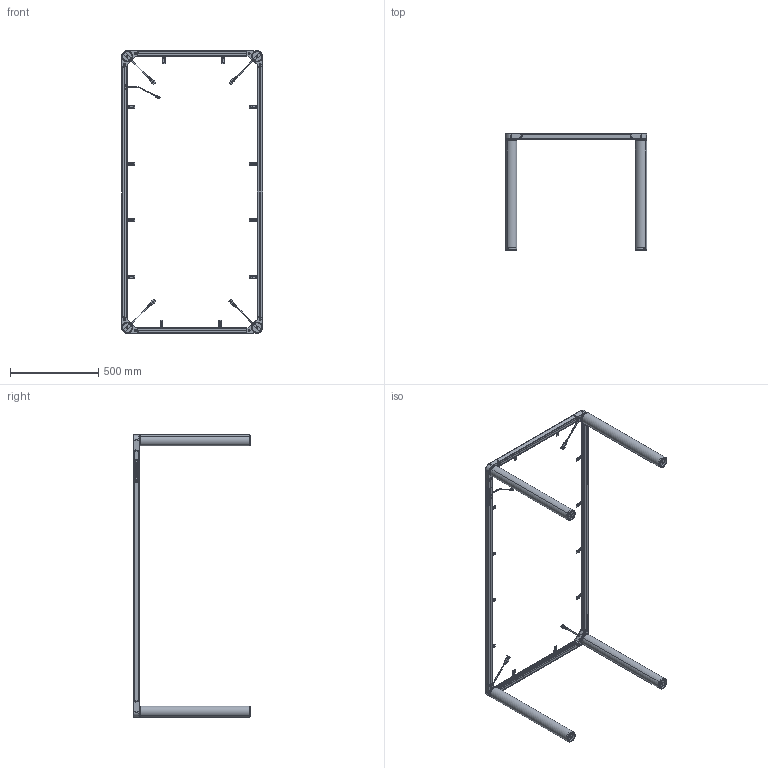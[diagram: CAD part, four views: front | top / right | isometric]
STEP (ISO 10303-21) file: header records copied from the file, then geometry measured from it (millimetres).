
FILE_DESCRIPTION((''),'2;1');
FILE_NAME('1103W4004_ASM','2026-03-03T12:54:26',('jak'),(''),'CREO PARAMETRIC BY PTC INC, 2022024','CREO PARAMETRIC BY PTC INC, 2022024','');
FILE_SCHEMA(('AUTOMOTIVE_DESIGN { 1 0 10303 214 1 1 1 1 }'));
Length unit declared in the file: millimetre
Products named in the file (9): 1103W1001; 1103W4007; 1103W4005; 1103W4009; 09144019; 1103W1006; 1103W4003; 1103W4001_ASM; 1103W4004_ASM
Assembly tree (26 placements, depth 3):
  1103W4004_ASM
    1103W1001  x4
    1103W4007
    1103W4005  x2
    1103W4009
    09144019
    1103W1006  x12
    1103W4001_ASM  x4
      1103W4003
Bounding box: 799.49 x 662.88 x 1597 mm (x, y, z)
Volume: 9269138.9 mm3; surface area: 1843546.1 mm2
Topology: 25 solids, 25 shells, 5949 faces, 14431 edges, 8706 vertices
Faces by surface type: cylinder 2155, plane 1904, bspline 956, torus 662, sphere 140, cone 124, extrusion 8
Entity records: 89218 total; most frequent: CARTESIAN_POINT 22787, ORIENTED_EDGE 9474, DIRECTION 8992, PRESENTATION_STYLE_ASSIGNMENT 5234, STYLED_ITEM 5202, EDGE_CURVE 4737, CURVE_STYLE 3757, AXIS2_PLACEMENT_3D 3196
